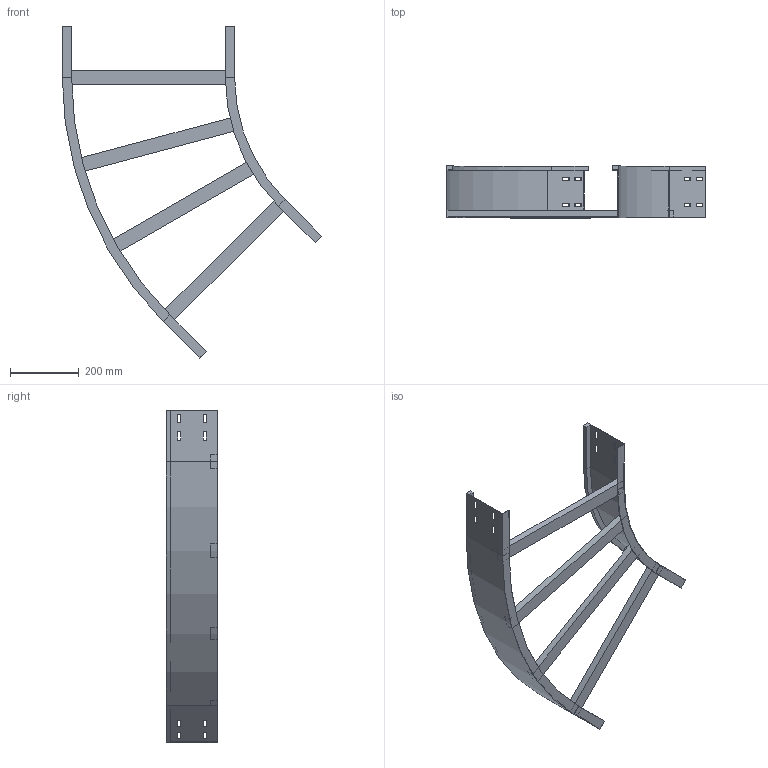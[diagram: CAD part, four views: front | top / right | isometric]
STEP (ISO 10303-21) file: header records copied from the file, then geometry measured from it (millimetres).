
FILE_DESCRIPTION (( 'STEP AP214' ), '1' );
FILE_NAME ('11J5F500.step', '2025-02-21T16:24:14', ( '' ), ( '' ), 'SwSTEP 2.0', 'SolidWorks 2023', '' );
FILE_SCHEMA (( 'AUTOMOTIVE_DESIGN' ));
Length unit declared in the file: millimetre
Products named in the file (4): TRAVERSINO_500; LONGH.ESTERNO 45°_H150_R500+500; 11J5F500; LONGH.INTERNO 45°_H150_R500
Assembly tree (6 placements, depth 2):
  11J5F500
    LONGH.INTERNO 45°_H150_R500
    LONGH.ESTERNO 45°_H150_R500+500
    TRAVERSINO_500  x4
Bounding box: 752.51 x 150 x 963.17 mm (x, y, z)
Volume: 2563568.7 mm3; surface area: 930033.5 mm2
Topology: 6 solids, 6 shells, 140 faces, 352 edges, 224 vertices
Faces by surface type: plane 132, cylinder 8
Entity records: 3829 total; most frequent: CARTESIAN_POINT 647, ORIENTED_EDGE 632, DIRECTION 594, EDGE_CURVE 316, VECTOR 300, LINE 300, VERTEX_POINT 200, EDGE_LOOP 154
